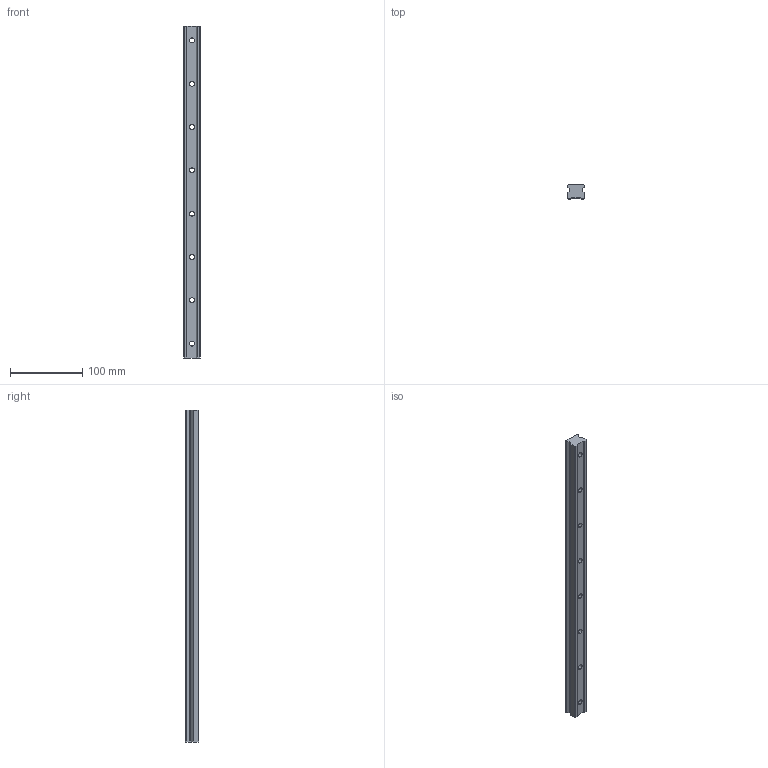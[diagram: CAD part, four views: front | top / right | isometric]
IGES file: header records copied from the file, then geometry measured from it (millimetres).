
Start section: SolidWorks IGES file using analytic representation for surfaces
Global section: file name: C:\Users\IanO\Desktop\L1016_v2\L1016.BL25_v2\L1016.BL25_v2_20160611_IGES\L1016.BL25-0460.igs; native system: SolidWorks 2017; preprocessor: SolidWorks 2017; author: IanO; date: 190612.130454; units: millimetre
Bounding box: 23 x 19.2 x 460 mm (x, y, z)
Surface area: 44301.3 mm2 (no closed solid volume)
Topology: 0 solids, 0 shells, 66 faces, 1320 edges, 1320 vertices
Faces by surface type: revolution 36, bspline 30
